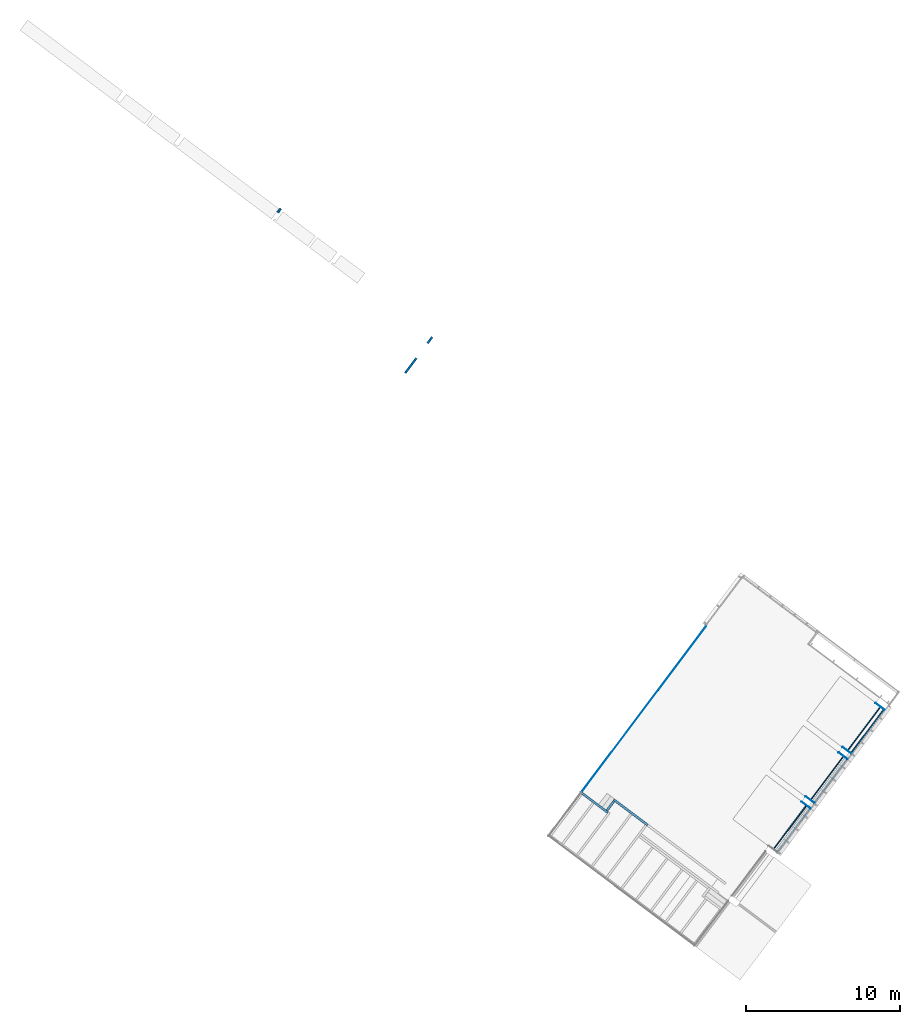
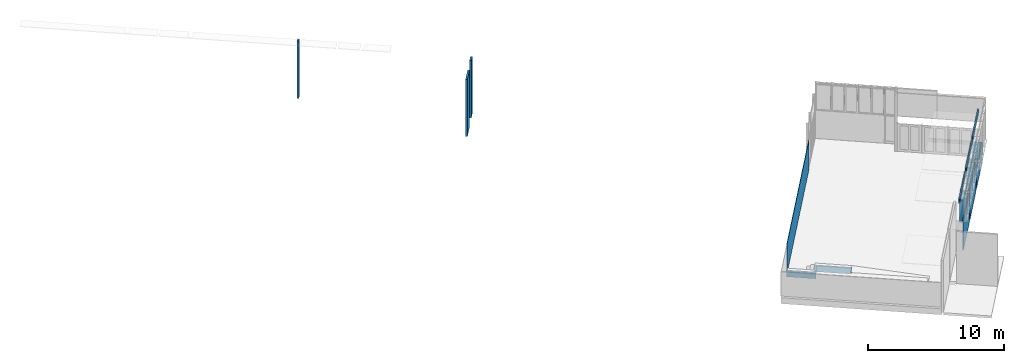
# One storey, part 7 of 15: 18 walls.
"""IFC2X3 building model written with IfcOpenShell, lengths in metres."""

from ifc_helpers import new_model, entity, si_unit, converted_unit, derived_unit, direction, frame, frame_2d, origin, place, context, subcontext, project, spatial, rectangle, extrude, material, layer, layer_set, layer_usage, type_object, element, save


model = new_model("IFC2X3")

# Units and contexts
model_context = context("Model", 3, precision=1e-05, world=origin(), true_north=direction((6.123031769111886e-17, 1.0)))
body_context = subcontext(model_context, "Body", "Model", "MODEL_VIEW")
ifc_project = project(units=[si_unit("LENGTHUNIT", "METRE"), si_unit("AREAUNIT", "SQUARE_METRE"), si_unit("VOLUMEUNIT", "CUBIC_METRE"), converted_unit("PLANEANGLEUNIT", "DEGREE", entity("IfcRatioMeasure", 0.017453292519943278), si_unit("PLANEANGLEUNIT", "RADIAN"), dimensions=[0, 0, 0, 0, 0, 0, 0]), si_unit("MASSUNIT", "GRAM", prefix="KILO"), derived_unit("MASSDENSITYUNIT", [(si_unit("MASSUNIT", "GRAM", prefix="KILO"), 1), (si_unit("LENGTHUNIT", "METRE"), -3)]), derived_unit("IONCONCENTRATIONUNIT", [(si_unit("MASSUNIT", "GRAM", prefix="KILO"), 1), (si_unit("LENGTHUNIT", "METRE"), -3)]), derived_unit("MOMENTOFINERTIAUNIT", [(si_unit("LENGTHUNIT", "METRE"), 4)]), si_unit("TIMEUNIT", "SECOND"), si_unit("FREQUENCYUNIT", "HERTZ"), si_unit("THERMODYNAMICTEMPERATUREUNIT", "DEGREE_CELSIUS"), derived_unit("THERMALTRANSMITTANCEUNIT", [(si_unit("MASSUNIT", "GRAM", prefix="KILO"), 1), (si_unit("THERMODYNAMICTEMPERATUREUNIT", "KELVIN"), -1), (si_unit("TIMEUNIT", "SECOND"), -3)]), derived_unit("THERMALCONDUCTANCEUNIT", [(si_unit("MASSUNIT", "GRAM", prefix="KILO"), 1), (si_unit("THERMODYNAMICTEMPERATUREUNIT", "KELVIN"), -1), (si_unit("TIMEUNIT", "SECOND"), -3), (si_unit("LENGTHUNIT", "METRE"), 1)]), derived_unit("VOLUMETRICFLOWRATEUNIT", [(si_unit("LENGTHUNIT", "METRE"), 3), (si_unit("TIMEUNIT", "SECOND"), -1)]), derived_unit("MASSFLOWRATEUNIT", [(si_unit("MASSUNIT", "GRAM", prefix="KILO"), 1), (si_unit("TIMEUNIT", "SECOND"), -1)]), derived_unit("ROTATIONALFREQUENCYUNIT", [(si_unit("TIMEUNIT", "SECOND"), -1)]), si_unit("ELECTRICCURRENTUNIT", "AMPERE"), si_unit("ELECTRICVOLTAGEUNIT", "VOLT"), si_unit("POWERUNIT", "WATT"), si_unit("FORCEUNIT", "NEWTON", prefix="KILO"), si_unit("ILLUMINANCEUNIT", "LUX"), si_unit("LUMINOUSFLUXUNIT", "LUMEN"), si_unit("LUMINOUSINTENSITYUNIT", "CANDELA"), derived_unit("USERDEFINED", [(si_unit("MASSUNIT", "GRAM", prefix="KILO"), -1), (si_unit("LENGTHUNIT", "METRE"), -2), (si_unit("TIMEUNIT", "SECOND"), 3), (si_unit("LUMINOUSFLUXUNIT", "LUMEN"), 1)]), derived_unit("USERDEFINED", [(si_unit("MASSUNIT", "GRAM", prefix="KILO"), 1), (si_unit("TIMEUNIT", "SECOND"), -3), (si_unit("LENGTHUNIT", "METRE"), 3), (si_unit("ELECTRICCURRENTUNIT", "AMPERE"), -2)]), derived_unit("SOUNDPOWERUNIT", [(si_unit("MASSUNIT", "GRAM", prefix="KILO"), 1), (si_unit("TIMEUNIT", "SECOND"), -3), (si_unit("LENGTHUNIT", "METRE"), 2)]), derived_unit("SOUNDPRESSUREUNIT", [(si_unit("MASSUNIT", "GRAM", prefix="KILO"), 1), (si_unit("LENGTHUNIT", "METRE"), -1), (si_unit("TIMEUNIT", "SECOND"), -2)]), derived_unit("LINEARVELOCITYUNIT", [(si_unit("LENGTHUNIT", "METRE"), 1), (si_unit("TIMEUNIT", "SECOND"), -1)]), si_unit("PRESSUREUNIT", "PASCAL"), derived_unit("USERDEFINED", [(si_unit("MASSUNIT", "GRAM", prefix="KILO"), 1), (si_unit("LENGTHUNIT", "METRE"), -2), (si_unit("TIMEUNIT", "SECOND"), -2)]), derived_unit("LINEARFORCEUNIT", [(si_unit("MASSUNIT", "GRAM", prefix="KILO"), 1), (si_unit("TIMEUNIT", "SECOND"), -2)]), derived_unit("PLANARFORCEUNIT", [(si_unit("MASSUNIT", "GRAM", prefix="KILO"), 1), (si_unit("LENGTHUNIT", "METRE"), -1), (si_unit("TIMEUNIT", "SECOND"), -2)]), derived_unit("SPECIFICHEATCAPACITYUNIT", [(si_unit("THERMODYNAMICTEMPERATUREUNIT", "KELVIN"), -1), (si_unit("LENGTHUNIT", "METRE"), 2), (si_unit("TIMEUNIT", "SECOND"), -2)]), derived_unit("HEATINGVALUEUNIT", [(si_unit("LENGTHUNIT", "METRE"), 2), (si_unit("TIMEUNIT", "SECOND"), -2)]), derived_unit("VAPORPERMEABILITYUNIT", [(si_unit("LENGTHUNIT", "METRE"), -1), (si_unit("TIMEUNIT", "SECOND"), 1)]), derived_unit("DYNAMICVISCOSITYUNIT", [(si_unit("MASSUNIT", "GRAM", prefix="KILO"), 1), (si_unit("TIMEUNIT", "SECOND"), -1), (si_unit("LENGTHUNIT", "METRE"), -1)]), derived_unit("THERMALEXPANSIONCOEFFICIENTUNIT", [(si_unit("THERMODYNAMICTEMPERATUREUNIT", "KELVIN"), -1)]), derived_unit("MODULUSOFELASTICITYUNIT", [(si_unit("MASSUNIT", "GRAM", prefix="KILO"), 1), (si_unit("LENGTHUNIT", "METRE"), -1), (si_unit("TIMEUNIT", "SECOND"), -2)]), derived_unit("ISOTHERMALMOISTURECAPACITYUNIT", [(si_unit("LENGTHUNIT", "METRE"), 3), (si_unit("MASSUNIT", "GRAM", prefix="KILO"), -1)]), derived_unit("MOISTUREDIFFUSIVITYUNIT", [(si_unit("TIMEUNIT", "SECOND"), -1), (si_unit("LENGTHUNIT", "METRE"), 2)])], contexts=[model_context])

# Site, building, storey
site_placement = place(None, frame((0.0, 0.0, 235.0), z_axis=(0.0, 0.0, 1.0), x_axis=(-0.7996477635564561, 0.6004693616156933, 0.0)))
site = spatial("IfcSite", under=ifc_project, at=site_placement, Name="Default", CompositionType="ELEMENT")
building_placement = place(site_placement, origin())
building = spatial("IfcBuilding", under=site, at=building_placement, CompositionType="ELEMENT")
storey_placement = place(building_placement, frame((0.0, 0.0, -5.4499999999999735)))
storey = spatial("IfcBuildingStorey", under=building, at=storey_placement, Name="PS1- Gimnàs", CompositionType="ELEMENT", Elevation=-5.4499999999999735)

# Walls
ifc_material_1 = material(Name="_Ceràmica- ENV")
ifc_layer_1 = layer(ifc_material_1, 0.14)
ifc_layer_set_1 = layer_set([ifc_layer_1], Name="Muro básico:ENV- Ceràmic- 14 cm")
ifc_layer_usage_1 = layer_usage(ifc_layer_set_1, "AXIS2", "NEGATIVE", 0.07)
wall_type_1 = type_object("IfcWallType", Name="Muro básico:ENV- Ceràmic- 14 cm", PredefinedType="STANDARD", material=ifc_layer_set_1)
wall_1_placement = place(storey_placement, frame((10.945147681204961, -22.770191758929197, -0.20000000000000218)))
element("IfcWallStandardCase", 1, at=wall_1_placement, inside=storey, type_object=wall_type_1, material=ifc_layer_usage_1, Name="Muro básico:ENV- Ceràmic- 14 cm", ObjectType="Muro básico:ENV- Ceràmic- 14 cm", context=body_context, shape_type="SweptSolid", body=[
    extrude(rectangle(XDim=2.7400000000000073, YDim=0.14000000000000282, at=frame_2d((1.3700000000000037, 0.0), x_axis=(-1.0, 0.0))), origin(), (0.0, 0.0, 1.0), 0.5300000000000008),
])
wall_2_placement = place(storey_placement, frame((13.615147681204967, -22.700191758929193, -0.20000000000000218), z_axis=(0.0, 0.0, 1.0), x_axis=(0.0, 1.0, 0.0)))
element("IfcWallStandardCase", 2, at=wall_2_placement, inside=storey, type_object=wall_type_1, material=ifc_layer_usage_1, Name="Muro básico:ENV- Ceràmic- 14 cm", ObjectType="Muro básico:ENV- Ceràmic- 14 cm", context=body_context, shape_type="SweptSolid", body=[
    extrude(rectangle(XDim=0.7600000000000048, YDim=0.1399999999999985, at=frame_2d((0.3800000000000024, 0.0), x_axis=(-1.0, 0.0))), origin(), (0.0, 0.0, 1.0), 0.5300000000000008),
])
wall_3_placement = place(storey_placement, frame((13.485147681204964, -21.87019175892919, -0.20000000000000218)))
element("IfcWallStandardCase", 3, at=wall_3_placement, inside=storey, type_object=wall_type_1, material=ifc_layer_usage_1, Name="Muro básico:ENV- Ceràmic- 14 cm", ObjectType="Muro básico:ENV- Ceràmic- 14 cm", context=body_context, shape_type="SweptSolid", body=[
    extrude(rectangle(XDim=2.185000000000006, YDim=0.14000000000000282, at=frame_2d((1.092500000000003, 0.0), x_axis=(-1.0, 0.0))), origin(), (0.0, 0.0, 1.0), 0.5300000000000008),
])
wall_4_placement = place(storey_placement, frame((53.975147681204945, -40.44019175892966, -0.20000000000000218), z_axis=(0.0, 0.0, 1.0), x_axis=(0.0, 1.0, 0.0)))
element("IfcWallStandardCase", 4, at=wall_4_placement, inside=storey, type_object=wall_type_1, material=ifc_layer_usage_1, Name="Muro básico:ENV- Ceràmic- 14 cm", ObjectType="Muro básico:ENV- Ceràmic- 14 cm", context=body_context, shape_type="SweptSolid", body=[
    extrude(rectangle(XDim=0.3000000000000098, YDim=0.14000000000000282, at=frame_2d((0.1500000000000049, 4.440892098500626e-16), x_axis=(-1.0, 0.0))), origin(), (0.0, 0.0, 1.0), 5.129999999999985),
])
ifc_layer_usage_2 = layer_usage(ifc_layer_set_1, "AXIS2", "POSITIVE", -0.07)
wall_5_placement = place(storey_placement, frame((41.11514768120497, -39.6901917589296, -0.20000000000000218), z_axis=(0.0, 0.0, 1.0), x_axis=(0.0, 1.0, 0.0)))
element("IfcWallStandardCase", 5, at=wall_5_placement, inside=storey, type_object=wall_type_1, material=ifc_layer_usage_2, Name="Muro básico:ENV- Ceràmic- 14 cm", ObjectType="Muro básico:ENV- Ceràmic- 14 cm", context=body_context, shape_type="SweptSolid", body=[
    extrude(rectangle(XDim=0.5070018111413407, YDim=0.14000000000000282, at=frame_2d((0.25350090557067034, 7.494005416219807e-16), x_axis=(-1.0, 0.0))), origin(), (0.0, 0.0, 1.0), 5.129999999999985),
])
wall_6_placement = place(storey_placement, frame((41.115147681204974, -37.98519175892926, -0.20000000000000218), z_axis=(0.0, 0.0, 1.0), x_axis=(0.0, 1.0, 0.0)))
element("IfcWallStandardCase", 6, at=wall_6_placement, inside=storey, type_object=wall_type_1, material=ifc_layer_usage_2, Name="Muro básico:ENV- Ceràmic- 14 cm", ObjectType="Muro básico:ENV- Ceràmic- 14 cm", context=body_context, shape_type="SweptSolid", body=[
    extrude(rectangle(XDim=1.2199999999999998, YDim=0.14000000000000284, at=frame_2d((0.6099999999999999, 1.8110513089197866e-15), x_axis=(-1.0, 0.0))), origin(), (0.0, 0.0, 1.0), 5.129999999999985),
])
ifc_material_2 = material(Name="_Fusta massisa- T1-  REV- PAV")
ifc_layer_2 = layer(ifc_material_2, 0.015)
ifc_material_3 = material(Name="_Genèric perfils, muntants, rastrells")
ifc_layer_3 = layer(ifc_material_3, 0.02)
ifc_layer_set_2 = layer_set([ifc_layer_2, ifc_layer_3], Name="Muro básico:REV- Fusta- T1- 3,5 cm")
ifc_layer_usage_3 = layer_usage(ifc_layer_set_2, "AXIS2", "NEGATIVE", 0.0175)
wall_type_2 = type_object("IfcWallType", Name="Muro básico:REV- Fusta- T1- 3,5 cm", PredefinedType="STANDARD", material=ifc_layer_set_2)
wall_7_placement = place(storey_placement, frame((15.652647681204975, -35.37519881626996, 0.0), z_axis=(0.0, 0.0, 1.0), x_axis=(0.0, 1.0, 0.0)))
element("IfcWallStandardCase", 7, at=wall_7_placement, inside=storey, type_object=wall_type_2, material=ifc_layer_usage_3, Name="Muro básico:REV- Fusta- T1- 3,5 cm", ObjectType="Muro básico:REV- Fusta- T1- 3,5 cm", context=body_context, shape_type="SweptSolid", body=[
    extrude(rectangle(XDim=13.505007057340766, YDim=0.03500000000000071, at=frame_2d((6.752503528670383, 4.49293380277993e-16), x_axis=(-1.0, 0.0))), origin(), (0.0, 0.0, 1.0), 2.6599999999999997),
])
wall_8_placement = place(storey_placement, frame((3.1451476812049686, -29.972691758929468, 0.0)))
element("IfcWallStandardCase", 8, at=wall_8_placement, inside=storey, type_object=wall_type_2, material=ifc_layer_usage_3, Name="Muro básico:REV- Fusta- T1- 3,5 cm", ObjectType="Muro básico:REV- Fusta- T1- 3,5 cm", context=body_context, shape_type="SweptSolid", body=[
    extrude(rectangle(XDim=0.720000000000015, YDim=0.035000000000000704, at=frame_2d((0.3600000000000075, 6.245004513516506e-17), x_axis=(-1.0, 0.0))), origin(), (0.0, 0.0, 1.0), 2.6159999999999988),
])
ifc_layer_usage_4 = layer_usage(ifc_layer_set_2, "AXIS2", "POSITIVE", -0.0175)
wall_9_placement = place(storey_placement, frame((3.1451476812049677, -30.407691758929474, 0.0)))
element("IfcWallStandardCase", 9, at=wall_9_placement, inside=storey, type_object=wall_type_2, material=ifc_layer_usage_4, Name="Muro básico:REV- Fusta- T1- 3,5 cm", ObjectType="Muro básico:REV- Fusta- T1- 3,5 cm", context=body_context, shape_type="SweptSolid", body=[
    extrude(rectangle(XDim=0.7200000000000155, YDim=0.035000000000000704, at=frame_2d((0.36000000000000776, -6.245004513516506e-17), x_axis=(-1.0, 0.0))), origin(), (0.0, 0.0, 1.0), 2.6159999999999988),
])
wall_10_placement = place(storey_placement, frame((3.145147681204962, -33.97269175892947, 0.0)))
element("IfcWallStandardCase", 10, at=wall_10_placement, inside=storey, type_object=wall_type_2, material=ifc_layer_usage_3, Name="Muro básico:REV- Fusta- T1- 3,5 cm", ObjectType="Muro básico:REV- Fusta- T1- 3,5 cm", context=body_context, shape_type="SweptSolid", body=[
    extrude(rectangle(XDim=0.720000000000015, YDim=0.035000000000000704, at=frame_2d((0.3600000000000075, 6.245004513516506e-17), x_axis=(-1.0, 0.0))), origin(), (0.0, 0.0, 1.0), 2.6159999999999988),
])
wall_11_placement = place(storey_placement, frame((3.1451476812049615, -34.407691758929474, 0.0)))
element("IfcWallStandardCase", 11, at=wall_11_placement, inside=storey, type_object=wall_type_2, material=ifc_layer_usage_4, Name="Muro básico:REV- Fusta- T1- 3,5 cm", ObjectType="Muro básico:REV- Fusta- T1- 3,5 cm", context=body_context, shape_type="SweptSolid", body=[
    extrude(rectangle(XDim=0.7200000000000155, YDim=0.035000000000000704, at=frame_2d((0.36000000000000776, -6.245004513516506e-17), x_axis=(-1.0, 0.0))), origin(), (0.0, 0.0, 1.0), 2.6159999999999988),
])
wall_12_placement = place(storey_placement, frame((3.1451476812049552, -37.97269175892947, 0.0)))
element("IfcWallStandardCase", 12, at=wall_12_placement, inside=storey, type_object=wall_type_2, material=ifc_layer_usage_3, Name="Muro básico:REV- Fusta- T1- 3,5 cm", ObjectType="Muro básico:REV- Fusta- T1- 3,5 cm", context=body_context, shape_type="SweptSolid", body=[
    extrude(rectangle(XDim=0.720000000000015, YDim=0.035000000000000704, at=frame_2d((0.3600000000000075, 6.245004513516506e-17), x_axis=(-1.0, 0.0))), origin(), (0.0, 0.0, 1.0), 1.6559999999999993),
])
ifc_material_4 = material(Name="_Guix laminat- ENV")
ifc_layer_4 = layer(ifc_material_4, 0.02)
ifc_material_5 = material(Name="_Aillament")
ifc_layer_5 = layer(ifc_material_5, 0.045)
ifc_layer_set_3 = layer_set([ifc_layer_4, ifc_layer_5], Name="Muro básico:REV- Guix Laminat Extradossat- Aillament- T1- 6,5 cm")
ifc_layer_usage_5 = layer_usage(ifc_layer_set_3, "AXIS2", "NEGATIVE", 0.032499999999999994)
wall_type_3 = type_object("IfcWallType", Name="Muro básico:REV- Guix Laminat Extradossat- Aillament- T1- 6,5 cm", PredefinedType="STANDARD", material=ifc_layer_set_3)
for number, where, z_axis, x_axis, name in (
    (13, (3.4646476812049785, -29.990191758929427, 4.204999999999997), (0.0, 0.0, 1.0), (0.0, 1.0, 0.0), "Muro básico:REV- Guix Laminat Extradossat- Aillament- T1- 6,5 cm"),
    (14, (3.4646476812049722, -33.990191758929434, 4.204999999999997), (0.0, 0.0, 1.0), (0.0, 1.0, 0.0), "Muro básico:REV- Guix Laminat Extradossat- Aillament- T1- 6,5 cm"),
    (15, (3.464647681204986, -37.990191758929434, 4.204999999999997), (0.0, 0.0, 1.0), (0.0, 1.0, 0.0), "Muro básico:REV- Guix Laminat Extradossat- Aillament- T1- 6,5 cm"),
):
    element("IfcWallStandardCase", number, at=place(storey_placement, frame(where, z_axis=z_axis, x_axis=x_axis)), inside=storey, type_object=wall_type_3, material=ifc_layer_usage_5, Name=name, ObjectType="Muro básico:REV- Guix Laminat Extradossat- Aillament- T1- 6,5 cm", context=body_context, shape_type="SweptSolid", body=[
        extrude(rectangle(XDim=3.599999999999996, YDim=0.06500000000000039, at=frame_2d((1.799999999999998, 0.0), x_axis=(-1.0, 0.0))), origin(), (0.0, 0.0, 1.0), 0.38999999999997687),
    ])
ifc_layer_6 = layer(ifc_material_2, 0.015)
ifc_layer_7 = layer(ifc_material_4, 0.02)
ifc_layer_8 = layer(ifc_material_3, 0.045)
ifc_layer_set_4 = layer_set([ifc_layer_6, ifc_layer_7, ifc_layer_8], Name="Muro básico:REV- Guix Laminat Extradossat + acabat de fusta- T1- 8 cm")
ifc_layer_usage_6 = layer_usage(ifc_layer_set_4, "AXIS2", "NEGATIVE", 0.04)
wall_type_4 = type_object("IfcWallType", Name="Muro básico:REV- Guix Laminat Extradossat + acabat de fusta- T1- 8 cm", PredefinedType="STANDARD", material=ifc_layer_set_4)
wall_13_placement = place(storey_placement, frame((3.1851476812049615, -34.42519175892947, 0.0), z_axis=(0.0, 0.0, 1.0), x_axis=(0.0, -1.0, 0.0)))
element("IfcWallStandardCase", 16, at=wall_13_placement, inside=storey, type_object=wall_type_4, material=ifc_layer_usage_6, Name="Muro básico:REV- Guix Laminat Extradossat + acabat de fusta- T1- 8 cm", ObjectType="Muro básico:REV- Guix Laminat Extradossat + acabat de fusta- T1- 8 cm", context=body_context, shape_type="SweptSolid", body=[
    extrude(rectangle(XDim=3.5299999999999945, YDim=0.08000000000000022, at=frame_2d((1.7649999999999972, -5.898059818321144e-17), x_axis=(-1.0, 0.0))), origin(), (0.0, 0.0, 1.0), 1.6559999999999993),
])
for number, where, z_axis, x_axis in (
    (17, (3.185147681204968, -30.425191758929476, 0.0), (0.0, 0.0, 1.0), (0.0, -1.0, 0.0)),
    (18, (3.1851476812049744, -26.425191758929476, 0.0), (0.0, 0.0, 1.0), (0.0, -1.0, 0.0)),
):
    element("IfcWallStandardCase", number, at=place(storey_placement, frame(where, z_axis=z_axis, x_axis=x_axis)), inside=storey, type_object=wall_type_4, material=ifc_layer_usage_6, Name="Muro básico:REV- Guix Laminat Extradossat + acabat de fusta- T1- 8 cm", ObjectType="Muro básico:REV- Guix Laminat Extradossat + acabat de fusta- T1- 8 cm", context=body_context, shape_type="SweptSolid", body=[
        extrude(rectangle(XDim=3.5299999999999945, YDim=0.08000000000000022, at=frame_2d((1.7649999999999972, -5.898059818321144e-17), x_axis=(-1.0, 0.0))), origin(), (0.0, 0.0, 1.0), 2.6159999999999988),
    ])

save(model, "model.ifc")
